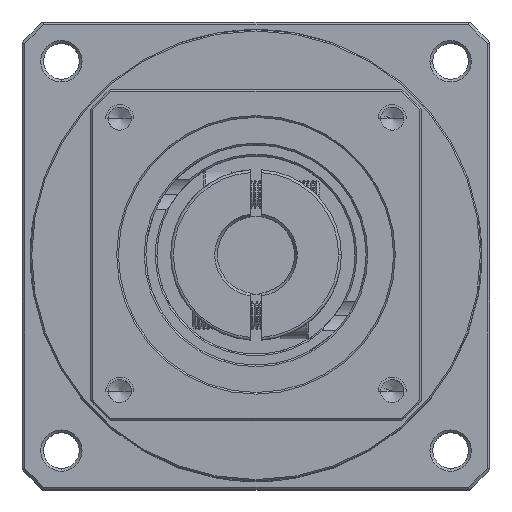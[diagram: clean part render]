
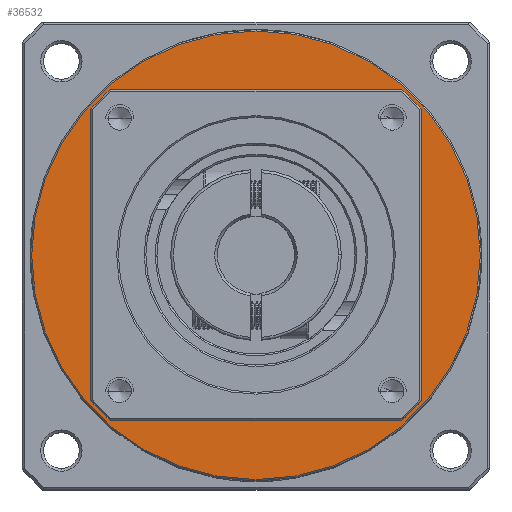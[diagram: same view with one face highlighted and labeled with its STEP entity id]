
A CAD part, top view. The second image highlights one B-rep face of the part: STEP entity #36532.
In plain terms, the highlighted planar face has unit normal (0, 0, 1).
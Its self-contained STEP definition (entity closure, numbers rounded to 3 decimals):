
#401 = VERTEX_POINT ( 'NONE', #68627 ) ;
#2368 = AXIS2_PLACEMENT_3D ( 'NONE', #15532, #80341, #24886 ) ;
#2398 = DIRECTION ( 'NONE',  ( 0., 0., -1. ) ) ;
#2586 = DIRECTION ( 'NONE',  ( -1., 0., 0. ) ) ;
#3893 = VERTEX_POINT ( 'NONE', #31332 ) ;
#5149 = AXIS2_PLACEMENT_3D ( 'NONE', #57883, #2398, #67267 ) ;
#5646 = ORIENTED_EDGE ( 'NONE', *, *, #57213, .F. ) ;
#6370 = AXIS2_PLACEMENT_3D ( 'NONE', #113308, #58108, #2586 ) ;
#11241 = CARTESIAN_POINT ( 'NONE',  ( -95.62, 20.48, -16.146 ) ) ;
#15158 = FACE_BOUND ( 'NONE', #117470, .T. ) ;
#15532 = CARTESIAN_POINT ( 'NONE',  ( -65.62, 20.48, -16.146 ) ) ;
#17939 = EDGE_LOOP ( 'NONE', ( #83171, #5646 ) ) ;
#23768 = CARTESIAN_POINT ( 'NONE',  ( -65.62, 20.48, -16.146 ) ) ;
#24886 = DIRECTION ( 'NONE',  ( -1., 0., 0. ) ) ;
#28718 = CARTESIAN_POINT ( 'NONE',  ( -106.37, 20.48, -16.146 ) ) ;
#28815 = CIRCLE ( 'NONE', #2368, 40.75 ) ;
#31332 = CARTESIAN_POINT ( 'NONE',  ( -24.87, 20.48, -16.146 ) ) ;
#33099 = DIRECTION ( 'NONE',  ( -1., 0., 0. ) ) ;
#36532 = ADVANCED_FACE ( 'NONE', ( #113401, #15158 ), #64288, .T. ) ;
#36713 = EDGE_CURVE ( 'NONE', #50657, #401, #84690, .T. ) ;
#38449 = VERTEX_POINT ( 'NONE', #28718 ) ;
#46131 = CARTESIAN_POINT ( 'NONE',  ( -65.62, 20.48, -16.146 ) ) ;
#50657 = VERTEX_POINT ( 'NONE', #11241 ) ;
#55341 = DIRECTION ( 'NONE',  ( 1., 0., 0. ) ) ;
#57213 = EDGE_CURVE ( 'NONE', #3893, #38449, #115027, .T. ) ;
#57883 = CARTESIAN_POINT ( 'NONE',  ( -65.62, 20.48, -16.146 ) ) ;
#58108 = DIRECTION ( 'NONE',  ( 0., 0., -1. ) ) ;
#64288 = PLANE ( 'NONE',  #72738 ) ;
#67267 = DIRECTION ( 'NONE',  ( -1., 0., 0. ) ) ;
#68627 = CARTESIAN_POINT ( 'NONE',  ( -35.62, 20.48, -16.146 ) ) ;
#72738 = AXIS2_PLACEMENT_3D ( 'NONE', #46131, #110595, #55341 ) ;
#80110 = CIRCLE ( 'NONE', #6370, 30. ) ;
#80341 = DIRECTION ( 'NONE',  ( 0., 0., -1. ) ) ;
#82740 = AXIS2_PLACEMENT_3D ( 'NONE', #23768, #88462, #33099 ) ;
#83171 = ORIENTED_EDGE ( 'NONE', *, *, #112374, .F. ) ;
#84690 = CIRCLE ( 'NONE', #82740, 30. ) ;
#88157 = EDGE_CURVE ( 'NONE', #401, #50657, #80110, .T. ) ;
#88462 = DIRECTION ( 'NONE',  ( 0., 0., -1. ) ) ;
#88680 = ORIENTED_EDGE ( 'NONE', *, *, #36713, .T. ) ;
#91009 = ORIENTED_EDGE ( 'NONE', *, *, #88157, .T. ) ;
#110595 = DIRECTION ( 'NONE',  ( 0., 0., 1. ) ) ;
#112374 = EDGE_CURVE ( 'NONE', #38449, #3893, #28815, .T. ) ;
#113308 = CARTESIAN_POINT ( 'NONE',  ( -65.62, 20.48, -16.146 ) ) ;
#113401 = FACE_OUTER_BOUND ( 'NONE', #17939, .T. ) ;
#115027 = CIRCLE ( 'NONE', #5149, 40.75 ) ;
#117470 = EDGE_LOOP ( 'NONE', ( #88680, #91009 ) ) ;
